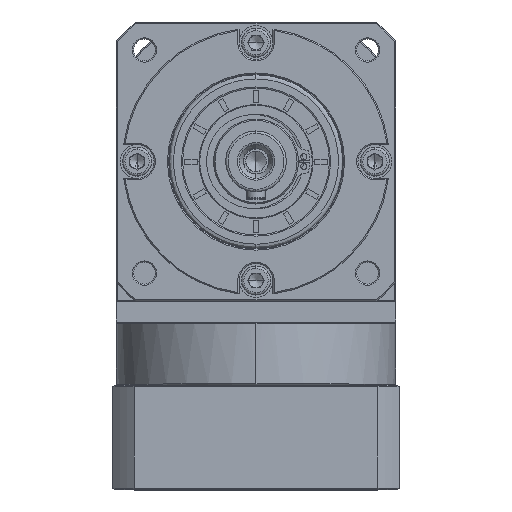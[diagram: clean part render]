
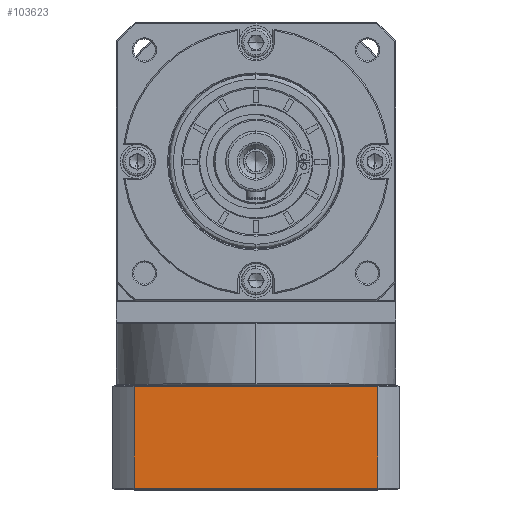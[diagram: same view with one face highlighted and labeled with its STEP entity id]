
A CAD part, top view. The second image highlights one B-rep face of the part: STEP entity #103623.
In plain terms, the highlighted planar face has unit normal (0, 0, 1).
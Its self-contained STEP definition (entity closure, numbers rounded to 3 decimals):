
#4309 = LINE ( 'NONE', #21926, #142757 ) ;
#7807 = LINE ( 'NONE', #158262, #106345 ) ;
#17013 = VECTOR ( 'NONE', #91976, 1000. ) ;
#21023 = FACE_OUTER_BOUND ( 'NONE', #165209, .T. ) ;
#21176 = LINE ( 'NONE', #78548, #17013 ) ;
#21926 = CARTESIAN_POINT ( 'NONE',  ( -246.361, -169.357, 98.058 ) ) ;
#29885 = CARTESIAN_POINT ( 'NONE',  ( -246.361, -169.857, 98.058 ) ) ;
#40790 = DIRECTION ( 'NONE',  ( 1., 0., 0. ) ) ;
#43484 = DIRECTION ( 'NONE',  ( -1., 0., 0. ) ) ;
#53666 = EDGE_CURVE ( 'NONE', #131457, #129463, #76114, .T. ) ;
#56190 = CARTESIAN_POINT ( 'NONE',  ( -237.613, -169.357, 98.058 ) ) ;
#59974 = ORIENTED_EDGE ( 'NONE', *, *, #160754, .F. ) ;
#62985 = DIRECTION ( 'NONE',  ( -1., 0., 0. ) ) ;
#64447 = CARTESIAN_POINT ( 'NONE',  ( -237.613, -127.357, 98.058 ) ) ;
#66284 = AXIS2_PLACEMENT_3D ( 'NONE', #29885, #123630, #43484 ) ;
#74957 = CARTESIAN_POINT ( 'NONE',  ( -137.109, -127.357, 98.058 ) ) ;
#76114 = LINE ( 'NONE', #121003, #107555 ) ;
#78548 = CARTESIAN_POINT ( 'NONE',  ( -237.613, -169.857, 98.058 ) ) ;
#89563 = EDGE_CURVE ( 'NONE', #151264, #100894, #4309, .T. ) ;
#91364 = DIRECTION ( 'NONE',  ( 0., -1., 0. ) ) ;
#91976 = DIRECTION ( 'NONE',  ( 0., 1., 0. ) ) ;
#98379 = ORIENTED_EDGE ( 'NONE', *, *, #53666, .F. ) ;
#100894 = VERTEX_POINT ( 'NONE', #56190 ) ;
#103623 = ADVANCED_FACE ( 'NONE', ( #21023 ), #150104, .F. ) ;
#106345 = VECTOR ( 'NONE', #91364, 1000. ) ;
#107555 = VECTOR ( 'NONE', #40790, 1000. ) ;
#119144 = EDGE_CURVE ( 'NONE', #100894, #131457, #21176, .T. ) ;
#121003 = CARTESIAN_POINT ( 'NONE',  ( -246.361, -127.357, 98.058 ) ) ;
#123630 = DIRECTION ( 'NONE',  ( 0., 0., -1. ) ) ;
#124604 = ORIENTED_EDGE ( 'NONE', *, *, #119144, .F. ) ;
#129463 = VERTEX_POINT ( 'NONE', #74957 ) ;
#131457 = VERTEX_POINT ( 'NONE', #64447 ) ;
#142757 = VECTOR ( 'NONE', #62985, 1000. ) ;
#145130 = ORIENTED_EDGE ( 'NONE', *, *, #89563, .F. ) ;
#150104 = PLANE ( 'NONE',  #66284 ) ;
#151264 = VERTEX_POINT ( 'NONE', #162558 ) ;
#158262 = CARTESIAN_POINT ( 'NONE',  ( -137.109, 94.538, 98.058 ) ) ;
#160754 = EDGE_CURVE ( 'NONE', #129463, #151264, #7807, .T. ) ;
#162558 = CARTESIAN_POINT ( 'NONE',  ( -137.109, -169.357, 98.058 ) ) ;
#165209 = EDGE_LOOP ( 'NONE', ( #59974, #98379, #124604, #145130 ) ) ;
